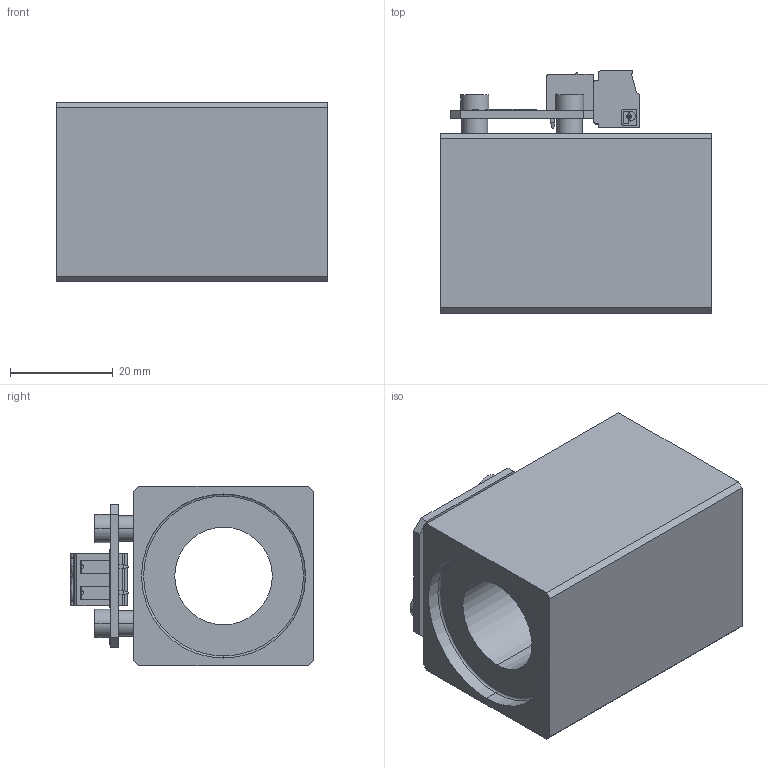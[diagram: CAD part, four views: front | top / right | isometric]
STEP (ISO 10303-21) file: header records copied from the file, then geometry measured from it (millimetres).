
FILE_DESCRIPTION (( 'STEP AP214' ), '1' );
FILE_NAME ('NXS35_19x50-M209b.STEP', '2015-07-28T14:12:21', ( '' ), ( '' ), 'SwSTEP 2.0', 'SolidWorks 2014', '' );
FILE_SCHEMA (( 'AUTOMOTIVE_DESIGN' ));
Length unit declared in the file: millimetre
Products named in the file (2): NXS35_19x50-M209b
Bounding box: 53 x 47.3 x 35 mm (x, y, z)
Volume: 50532 mm3; surface area: 17319.1 mm2
Topology: 14 solids, 16 shells, 587 faces, 1493 edges, 972 vertices
Faces by surface type: plane 363, cylinder 187, bspline 17, cone 14, torus 6
Entity records: 24638 total; most frequent: CARTESIAN_POINT 3702, ORIENTED_EDGE 2966, DIRECTION 2942, EDGE_CURVE 1483, LINE 998, VECTOR 998, VERTEX_POINT 972, AXIS2_PLACEMENT_3D 972
